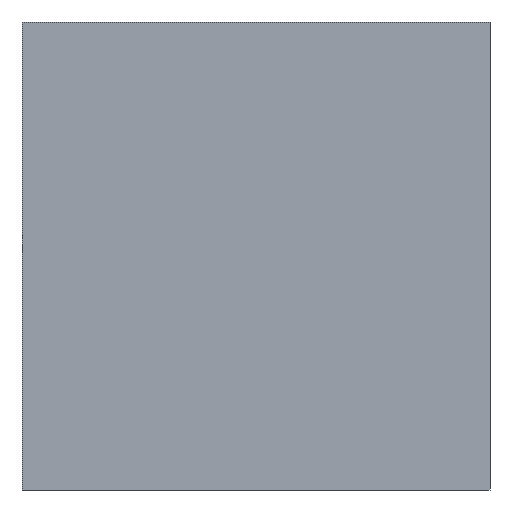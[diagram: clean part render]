
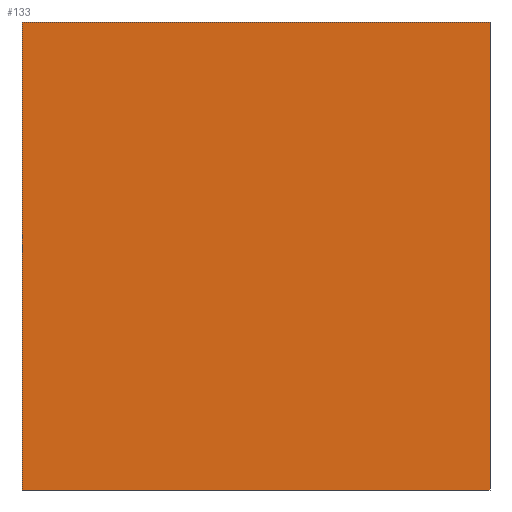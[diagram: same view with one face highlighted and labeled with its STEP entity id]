
A CAD part, front view. The second image highlights one B-rep face of the part: STEP entity #133.
In plain terms, the highlighted planar face has unit normal (0, -1, 0).
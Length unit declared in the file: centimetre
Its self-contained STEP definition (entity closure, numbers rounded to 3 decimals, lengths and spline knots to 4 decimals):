
#6 = ORIENTED_EDGE ( 'NONE', *, *, #308, .F. ) ;
#15 = CARTESIAN_POINT ( 'NONE',  ( 0., 0., 1000. ) ) ;
#35 = PLANE ( 'NONE',  #40 ) ;
#40 = AXIS2_PLACEMENT_3D ( 'NONE', #15, #123, #172 ) ;
#44 = VERTEX_POINT ( 'NONE', #159 ) ;
#49 = DIRECTION ( 'NONE',  ( 0., 0., -1. ) ) ;
#54 = EDGE_CURVE ( 'NONE', #289, #44, #351, .T. ) ;
#58 = EDGE_LOOP ( 'NONE', ( #221, #6, #147, #154 ) ) ;
#86 = EDGE_CURVE ( 'NONE', #44, #255, #344, .T. ) ;
#98 = CARTESIAN_POINT ( 'NONE',  ( 1000., 0., 1000. ) ) ;
#102 = CARTESIAN_POINT ( 'NONE',  ( 0., 0., 1000. ) ) ;
#123 = DIRECTION ( 'NONE',  ( 0., 1., 0. ) ) ;
#133 = ADVANCED_FACE ( 'NONE', ( #264 ), #35, .F. ) ;
#147 = ORIENTED_EDGE ( 'NONE', *, *, #331, .F. ) ;
#149 = VECTOR ( 'NONE', #318, 100. ) ;
#154 = ORIENTED_EDGE ( 'NONE', *, *, #54, .T. ) ;
#159 = CARTESIAN_POINT ( 'NONE',  ( 0., 0., 0. ) ) ;
#172 = DIRECTION ( 'NONE',  ( 0., 0., 1. ) ) ;
#221 = ORIENTED_EDGE ( 'NONE', *, *, #86, .T. ) ;
#222 = VECTOR ( 'NONE', #49, 100. ) ;
#226 = CARTESIAN_POINT ( 'NONE',  ( 0., 0., 0. ) ) ;
#255 = VERTEX_POINT ( 'NONE', #299 ) ;
#264 = FACE_OUTER_BOUND ( 'NONE', #58, .T. ) ;
#272 = CARTESIAN_POINT ( 'NONE',  ( 1000., 0., 1000. ) ) ;
#289 = VERTEX_POINT ( 'NONE', #350 ) ;
#297 = VECTOR ( 'NONE', #301, 100. ) ;
#298 = VECTOR ( 'NONE', #358, 100. ) ;
#299 = CARTESIAN_POINT ( 'NONE',  ( 1000., 0., 0. ) ) ;
#301 = DIRECTION ( 'NONE',  ( 0., 0., -1. ) ) ;
#303 = LINE ( 'NONE', #98, #222 ) ;
#308 = EDGE_CURVE ( 'NONE', #310, #255, #303, .T. ) ;
#310 = VERTEX_POINT ( 'NONE', #272 ) ;
#318 = DIRECTION ( 'NONE',  ( 1., 0., 0. ) ) ;
#325 = CARTESIAN_POINT ( 'NONE',  ( 0., 0., 1000. ) ) ;
#327 = LINE ( 'NONE', #325, #298 ) ;
#331 = EDGE_CURVE ( 'NONE', #289, #310, #327, .T. ) ;
#344 = LINE ( 'NONE', #226, #149 ) ;
#350 = CARTESIAN_POINT ( 'NONE',  ( 0., 0., 1000. ) ) ;
#351 = LINE ( 'NONE', #102, #297 ) ;
#358 = DIRECTION ( 'NONE',  ( 1., 0., 0. ) ) ;
